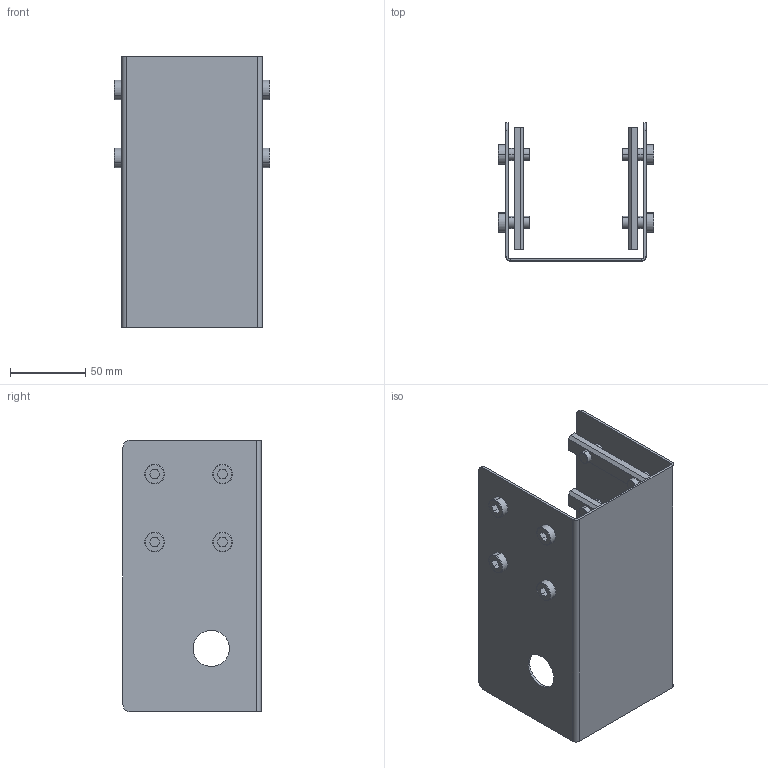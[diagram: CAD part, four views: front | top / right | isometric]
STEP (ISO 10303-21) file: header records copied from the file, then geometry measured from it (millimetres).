
FILE_DESCRIPTION (( 'STEP AP203' ), '1' );
FILE_NAME ('900.400.013.STEP', '2018-02-27T07:47:01', ( '' ), ( '' ), 'SwSTEP 2.0', 'SolidWorks 2016', '' );
FILE_SCHEMA (( 'CONFIG_CONTROL_DESIGN' ));
Length unit declared in the file: millimetre
Products named in the file (4): 084.302.016; 084.301.000 VITI ALUSIC_084.301.002; 900.400.013-L; 900.400.013
Assembly tree (13 placements, depth 2):
  900.400.013
    900.400.013-L
    084.302.016  x4
    084.301.000 VITI ALUSIC_084.301.002  x8
Bounding box: 103 x 91.5 x 180 mm (x, y, z)
Volume: 103834.8 mm3; surface area: 117033.7 mm2
Topology: 13 solids, 13 shells, 238 faces, 540 edges, 344 vertices
Faces by surface type: plane 130, cylinder 76, cone 16, torus 16
Entity records: 3008 total; most frequent: DIRECTION 446, CARTESIAN_POINT 392, ORIENTED_EDGE 368, EDGE_CURVE 184, AXIS2_PLACEMENT_3D 170, VERTEX_POINT 116, LINE 106, VECTOR 106
